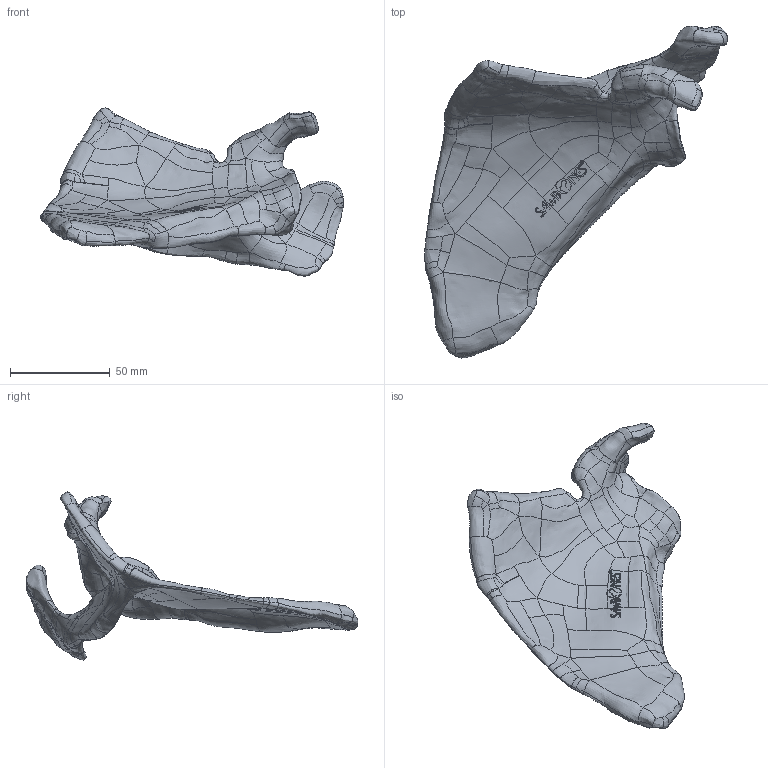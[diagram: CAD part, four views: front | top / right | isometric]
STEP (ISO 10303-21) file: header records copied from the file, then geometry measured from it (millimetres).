
FILE_DESCRIPTION (( 'STEP AP203' ), '1' );
FILE_NAME ('1021-1.STEP', '2025-05-21T18:36:54', ( '' ), ( '' ), 'SwSTEP 2.0', 'SolidWorks 2024', '' );
FILE_SCHEMA (( 'CONFIG_CONTROL_DESIGN' ));
Products named in the file (1): 1021-1
Bounding box: 151.53 x 166.27 x 84.21 mm (x, y, z)
Volume: 107811.8 mm3; surface area: 40547.5 mm2
Topology: 1 solids, 1 shells, 582 faces, 1493 edges, 922 vertices
Faces by surface type: bspline 578, plane 4
Entity records: 291591 total; most frequent: CARTESIAN_POINT 282255, ORIENTED_EDGE 2986, B_SPLINE_CURVE_WITH_KNOTS 1493, EDGE_CURVE 1493, VERTEX_POINT 922, EDGE_LOOP 591, FACE_OUTER_BOUND 582, ADVANCED_FACE 582
